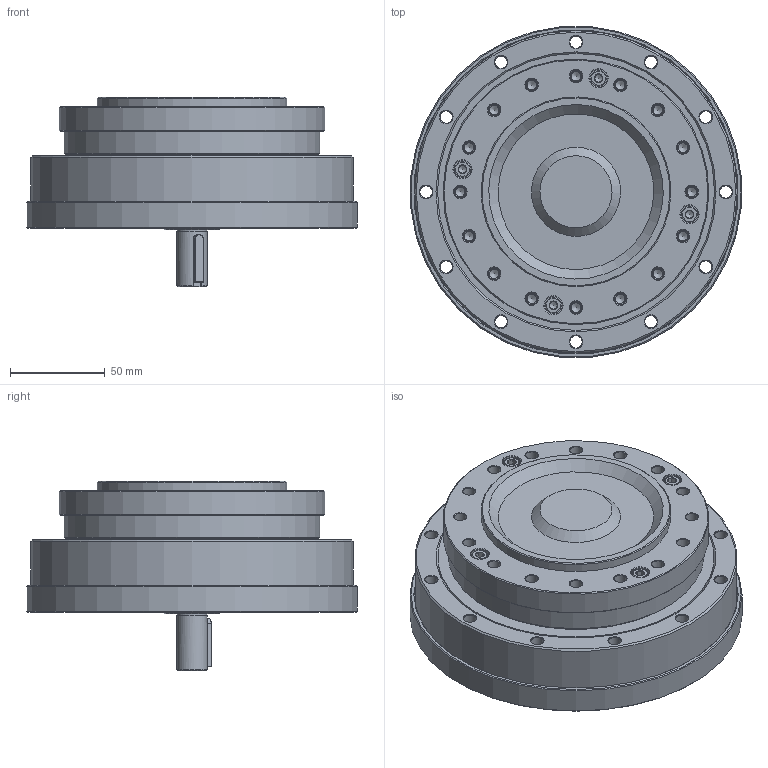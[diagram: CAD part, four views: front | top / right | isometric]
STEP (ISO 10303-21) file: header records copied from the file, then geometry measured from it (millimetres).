
FILE_DESCRIPTION(/* description */ (''),/* implementation_level */ '2;1');
FILE_NAME(/* name */ 'LHT-40-XX-U-IV.stp',/* time_stamp */ '2023-07-29T10:57:39+08:00',/* author */ (''),/* organization */ (''),/* preprocessor_version */ 'ST-DEVELOPER v16.7',/* originating_system */ 'SIEMENS PLM Software NX 12.0',/* authorisation */ '');
FILE_SCHEMA (('AUTOMOTIVE_DESIGN { 1 0 10303 214 3 1 1 1 }'));
Length unit declared in the file: millimetre
Products named in the file (21): EB7310015-40KC-01; EB7310015-40KC-46; TC-132x146x7; C型平键5x5x25; SC-30x45x7; GB-T276_60000_2Z-1994,6003_2Z; GB-T276_60000_2Z-1994,6006_2Z; LHT-40-00-IV下壳体; LHT-40-00-IV上壳体; LHT-40-XX-IV-带键; GB-T70.1-2000,M5x25; 内六角平圆头螺钉M4x12; 内六角平圆头螺钉M4x10; O-108x1.78; O-143x2; GB-T70.1-2000,M5x16; 刚轮LHT-40; 柔轮LHT-40; EB7310015-40KC; 交叉轴承LHT-40_MODEL; LHT-40-XX-U-IV
Assembly tree (36 placements, depth 3):
  LHT-40-XX-U-IV
    交叉轴承LHT-40_MODEL
      TC-132x146x7
    柔轮LHT-40
    刚轮LHT-40
    EB7310015-40KC
      EB7310015-40KC-46
      EB7310015-40KC-01
    GB-T70.1-2000,M5x16  x4
    O-143x2
    O-108x1.78
    内六角平圆头螺钉M4x10  x6
    内六角平圆头螺钉M4x12  x6
    GB-T70.1-2000,M5x25  x4
    LHT-40-XX-IV-带键
    LHT-40-00-IV上壳体
    LHT-40-00-IV下壳体
    GB-T276_60000_2Z-1994,6006_2Z
    GB-T276_60000_2Z-1994,6003_2Z
    SC-30x45x7
    C型平键5x5x25
Bounding box: 174.33 x 174.33 x 100 mm (x, y, z)
Volume: 910004.8 mm3; surface area: 410813.9 mm2
Topology: 86 solids, 86 shells, 1525 faces, 3380 edges, 2026 vertices
Faces by surface type: cone 530, plane 470, cylinder 348, torus 130, sphere 43, revolution 2, bspline 2
Full cylindrical faces by diameter (mm): 3.3 x12, 3.838 x12, 4.2 x20, 4.5 x18, 4.826 x8, 5 x16, 5.5 x12, 6.5 x56, 6.6 x12, 7 x12, 8 x12, 8.5 x8, 9.5 x4, 10 x10, 15.5 x1, 16 x1, 16.5 x1, 17 x2, 20 x1, 23 x2, 25.4 x2, 28.6 x1, 29 x2, 29.5 x1, 30 x4, 33 x1, 35 x3, 38.334 x2, 41.666 x2, 45 x2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
Entity records: 31642 total; most frequent: CARTESIAN_POINT 9127, DIRECTION 4795, ORIENTED_EDGE 3014, AXIS2_PLACEMENT_3D 2297, EDGE_LOOP 2034, FACE_BOUND 1873, EDGE_CURVE 1507, VERTEX_POINT 1361
